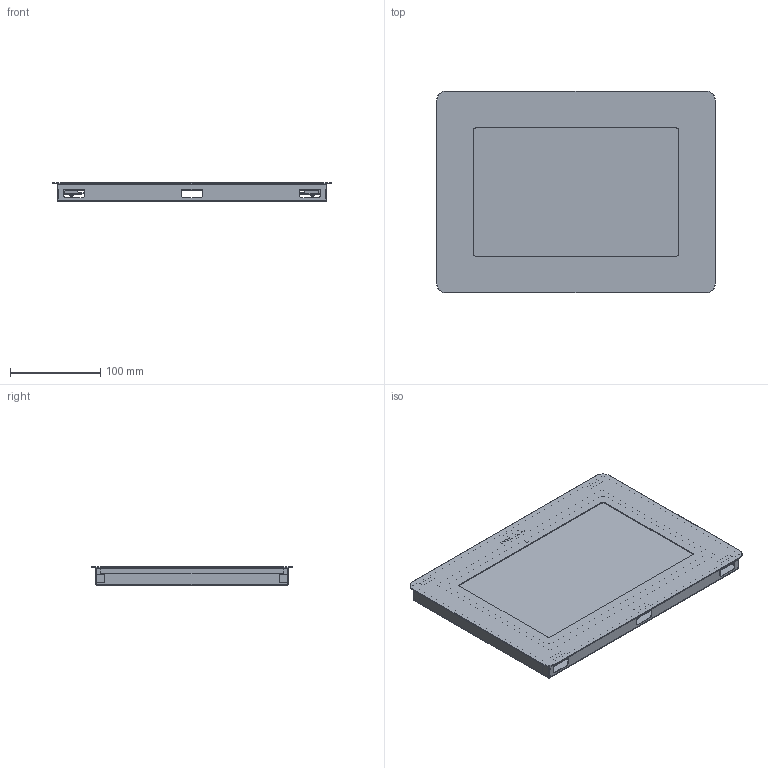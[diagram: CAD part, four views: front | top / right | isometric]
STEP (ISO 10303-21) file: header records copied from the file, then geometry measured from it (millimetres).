
FILE_DESCRIPTION(/* description */ ('','CAx-IF Rec.Pracs.---Representation and Presentation of Product Manufacturing Information (PMI)---4.0---2014-10-13'),/* implementation_level */ '2;1');
FILE_NAME(/* name */ 'FT-01a.step',/* time_stamp */ '2025-02-23T20:21:26+01:00',/* author */ (''),/* organization */ (''),/* preprocessor_version */ 'ST-DEVELOPER v20',/* originating_system */ 'Autodesk Translation Framework v13.20.0.188',/* authorisation */ '');
FILE_SCHEMA (('AP242_MANAGED_MODEL_BASED_3D_ENGINEERING_MIM_LF { 1 0 10303 442 1 1 4 }'));
Length unit declared in the file: millimetre
Products named in the file (11): OP-1420-A; Samsung A8; Szkło A8; farba2; S_043.07.000.00025; Ramka; OP-1420-B; S_023.05.000.00002 ocynk; S_023.02.000.00019; S_026.00.000.00009V1	; logo tech ramka tablet
Assembly tree (36 placements, depth 3):
  OP-1420-A
    Samsung A8
    Szkło A8
      farba2
    S_043.07.000.00025
    Ramka
    S_026.00.000.00009V1	  x6
    OP-1420-B  x8
    S_023.05.000.00002 ocynk  x8
    S_023.02.000.00019  x8
    logo tech ramka tablet
Bounding box: 308 x 223 x 20.01 mm (x, y, z)
Volume: 415077.9 mm3; surface area: 462830 mm2
Topology: 52 solids, 52 shells, 2156 faces, 5225 edges, 3265 vertices
Faces by surface type: plane 930, cylinder 593, bspline 259, cone 216, sphere 84, torus 74
Full cylindrical faces by diameter (mm): 0.8 x3, 1.2 x36, 2.2 x8, 3 x2, 3.2 x8, 6 x8, 12.7 x1
Entity records: 46409 total; most frequent: CARTESIAN_POINT 10992, ORIENTED_EDGE 7224, DIRECTION 7158, EDGE_CURVE 3612, AXIS2_PLACEMENT_3D 2528, VERTEX_POINT 2291, LINE 2102, VECTOR 2102
